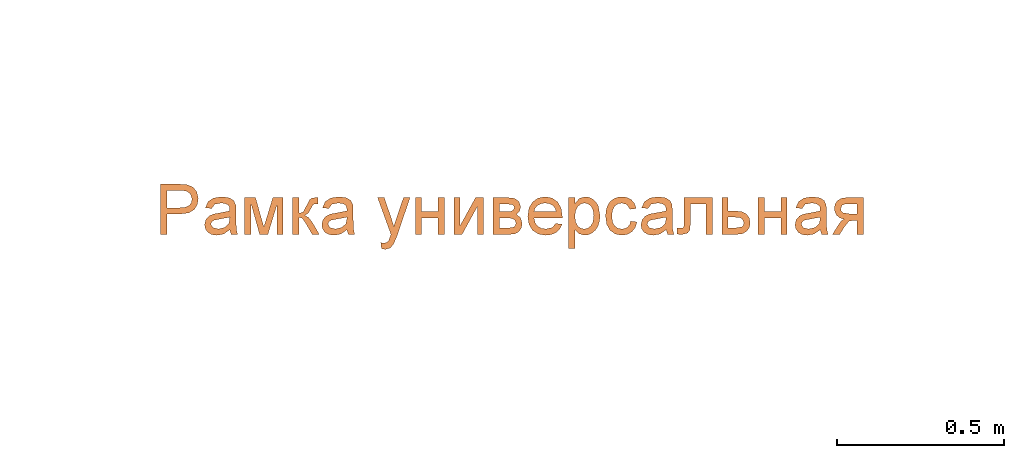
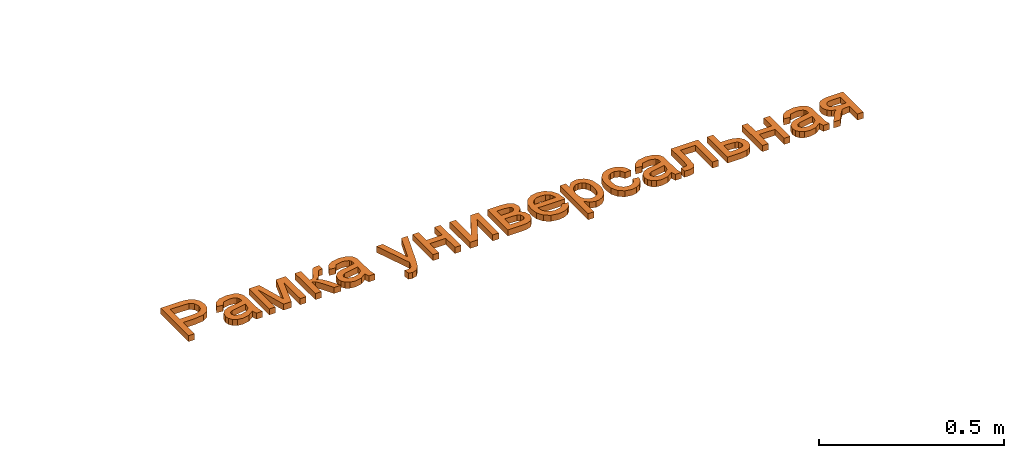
# One storey, part 30 of 87: 1 proxy.
"""IFC2X3 building model written with IfcOpenShell, lengths in millimetres."""

from ifc_helpers import new_model, entity, si_unit, converted_unit, derived_unit, direction, frame, origin, place, context, subcontext, project, spatial, polyline, outline, extrude, element, save


model = new_model("IFC2X3")

# Units and contexts
model_context = context("Model", 3, precision=0.01, world=origin(), true_north=direction((6.12303176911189e-17, 1.0)))
body_context = subcontext(model_context, "Body", "Model", "MODEL_VIEW")
ifc_project = project(units=[si_unit("LENGTHUNIT", "METRE", prefix="MILLI"), si_unit("AREAUNIT", "SQUARE_METRE"), si_unit("VOLUMEUNIT", "CUBIC_METRE"), converted_unit("PLANEANGLEUNIT", "DEGREE", entity("IfcRatioMeasure", 0.0174532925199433), si_unit("PLANEANGLEUNIT", "RADIAN"), dimensions=[0, 0, 0, 0, 0, 0, 0]), si_unit("MASSUNIT", "GRAM", prefix="KILO"), derived_unit("MASSDENSITYUNIT", [(si_unit("MASSUNIT", "GRAM", prefix="KILO"), 1), (si_unit("LENGTHUNIT", "METRE"), -3)]), si_unit("TIMEUNIT", "SECOND"), si_unit("FREQUENCYUNIT", "HERTZ"), si_unit("THERMODYNAMICTEMPERATUREUNIT", "DEGREE_CELSIUS"), derived_unit("THERMALTRANSMITTANCEUNIT", [(si_unit("MASSUNIT", "GRAM", prefix="KILO"), 1), (si_unit("THERMODYNAMICTEMPERATUREUNIT", "KELVIN"), -1), (si_unit("TIMEUNIT", "SECOND"), -3)]), derived_unit("VOLUMETRICFLOWRATEUNIT", [(si_unit("LENGTHUNIT", "METRE"), 3), (si_unit("TIMEUNIT", "SECOND"), -1)]), si_unit("ELECTRICCURRENTUNIT", "AMPERE"), si_unit("ELECTRICVOLTAGEUNIT", "VOLT"), si_unit("POWERUNIT", "WATT"), si_unit("FORCEUNIT", "NEWTON", prefix="KILO"), si_unit("ILLUMINANCEUNIT", "LUX"), si_unit("LUMINOUSFLUXUNIT", "LUMEN"), si_unit("LUMINOUSINTENSITYUNIT", "CANDELA"), derived_unit("USERDEFINED", [(si_unit("MASSUNIT", "GRAM", prefix="KILO"), -1), (si_unit("LENGTHUNIT", "METRE"), -2), (si_unit("TIMEUNIT", "SECOND"), 3), (si_unit("LUMINOUSFLUXUNIT", "LUMEN"), 1)]), derived_unit("LINEARVELOCITYUNIT", [(si_unit("LENGTHUNIT", "METRE"), 1), (si_unit("TIMEUNIT", "SECOND"), -1)]), si_unit("PRESSUREUNIT", "PASCAL"), derived_unit("USERDEFINED", [(si_unit("LENGTHUNIT", "METRE"), -2), (si_unit("MASSUNIT", "GRAM", prefix="KILO"), 1), (si_unit("TIMEUNIT", "SECOND"), -2)])], contexts=[model_context])

# Site, building, storey
site_placement = place(None, origin())
site = spatial("IfcSite", under=ifc_project, at=site_placement, Name="Default", CompositionType="ELEMENT")
building_placement = place(site_placement, origin())
building = spatial("IfcBuilding", under=site, at=building_placement, Name="Наименование здания", CompositionType="ELEMENT")
storey_placement = place(building_placement, origin())
storey = spatial("IfcBuildingStorey", under=building, at=storey_placement, Name="Этаж 01", CompositionType="ELEMENT", Elevation=0.0)

# Proxy
proxy_placement = place(storey_placement, origin())
element("IfcBuildingElementProxy", 1, at=proxy_placement, inside=storey, Name="Текст модели:150 мм Arial", ObjectType="Текст модели:150 мм Arial", context=body_context, shape_type="SweptSolid", body=[
    extrude(outline(polyline([(-64.7670401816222, -90.6454161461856), (-45.9314820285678, -90.6454161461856), (-45.9314820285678, -29.4298521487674), (-7.63496633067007, -29.4298521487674), (19.1238502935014, -26.1005200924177), (36.1245969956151, -16.1125239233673), (45.2158808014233, -1.31447066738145), (48.2463087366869, 16.4450326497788), (43.7581483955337, 36.9912420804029), (31.8939540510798, 51.5593690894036), (13.5918247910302, 58.6043092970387), (-8.92255331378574, 60.039049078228), (-64.7670401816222, 60.039049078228), (-64.7670401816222, -90.6454161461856)]), holes=[polyline([(-45.9314820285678, -10.5942939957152), (-45.9314820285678, 41.2034909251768), (-6.97277873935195, 41.2034909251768), (11.8627794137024, 39.9159039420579), (24.5731023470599, 31.3810416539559), (29.4107505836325, 15.7828450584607), (27.3598084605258, 4.64521765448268), (21.2069820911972, -3.6781124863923), (10.1705222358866, -8.86524861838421), (-6.53132034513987, -10.5942939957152), (-45.9314820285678, -10.5942939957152)])]), frame((72199.9794154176, -7617.29689412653, 0.0)), (0.0, 0.0, 1.0), 20.0),
    extrude(outline(polyline([(49.6524096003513, 10.0181831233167), (64.5432257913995, 10.0181831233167), (70.499552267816, 27.8871625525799), (54.2883394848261, 29.3355270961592), (22.9420080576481, 38.7760718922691), (0.710484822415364, 46.1865796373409), (-15.2157084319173, 50.525856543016), (-29.1700318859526, 49.0891254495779), (-41.2222862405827, 39.5147959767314), (-51.6167739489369, 18.9177724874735), (-55.8804334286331, -5.85565960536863), (-50.8431495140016, -24.8298167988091), (-35.9697834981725, -38.3769694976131), (-27.7798345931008, -21.2525308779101), (-37.1040448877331, -8.56625349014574), (-34.5156022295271, 10.6580228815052), (-29.3910674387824, 21.7272506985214), (-22.7658175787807, 28.6898706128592), (-16.3179778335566, 30.6413818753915), (-7.93316863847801, 29.2133758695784), (-3.98942903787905, 27.7824615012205), (-8.17747109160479, -5.25653692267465), (-10.6437625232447, -21.613167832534), (-8.95109552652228, -36.079363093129), (-1.68600590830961, -48.4864376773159), (11.3085579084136, -56.6182193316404), (24.0777236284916, -58.3588743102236), (36.0005558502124, -54.7859509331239), (46.0329524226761, -45.8907241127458), (53.1308111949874, -31.6644687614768), (55.9868232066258, -11.3466480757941), (49.6524096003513, 10.0181831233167)]), holes=[polyline([(13.9144507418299, 21.930836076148), (18.9401012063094, 20.1392847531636), (31.8183305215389, 12.7055101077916), (38.2807120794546, -2.40052491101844), (36.529877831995, -21.9040040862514), (27.449969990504, -36.2305979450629), (16.0084717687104, -38.3304356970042), (9.94744424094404, -33.5956214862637), (7.55677023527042, -25.0624858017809), (9.78457593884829, -8.72330506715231), (13.9144507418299, 21.930836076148)])]), frame((72317.1979613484, -7649.87925763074, 0.0), z_axis=(0.0, 0.0, 1.0), x_axis=(0.31622776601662, -0.948683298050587, 0.0)), (0.0, 0.0, 1.0), 20.0),
    extrude(outline(polyline([(-60.8759806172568, -57.6754072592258), (49.7829235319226, -57.6754072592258), (49.7829235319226, -38.8398491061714), (-43.5855268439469, -38.8398491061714), (49.7829235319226, -12.9409566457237), (49.7829235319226, 11.7807134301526), (-39.3180956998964, 38.8568282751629), (49.7829235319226, 38.8568282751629), (49.7829235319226, 57.6923864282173), (-60.8759806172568, 57.6923864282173), (-60.8759806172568, 26.6431460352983), (27.7100038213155, -0.28581601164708), (-60.8759806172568, -25.26500348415), (-60.8759806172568, -57.6754072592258)])), frame((72444.8133727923, -7658.15938674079, 0.0), z_axis=(0.0, 0.0, 1.0), x_axis=(0.0, -1.0, 0.0)), (0.0, 0.0, 1.0), 20.0),
    extrude(outline(polyline([(-45.4943568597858, -44.3029556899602), (65.1645472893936, -44.3029556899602), (65.1645472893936, -25.4673975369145), (13.3667623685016, -25.4673975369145), (16.8432472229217, -15.3506426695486), (31.2090391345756, -5.41782879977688), (65.1645472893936, 14.3374343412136), (65.1645472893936, 35.748166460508), (30.4732751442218, 15.5882331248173), (15.031428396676, 3.92637387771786), (7.70137964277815, -7.95621456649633), (1.13468602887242, 2.69396919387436), (-12.2746126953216, 10.2907323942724), (-24.6722359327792, 16.76545550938), (-26.6587987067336, 25.9625053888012), (-26.5484341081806, 31.03927692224), (-45.4943568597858, 31.03927692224), (-45.4943568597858, 27.434033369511), (-44.0596170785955, 13.6568526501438), (-38.5229930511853, 6.0784835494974), (-21.508450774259, -2.51156103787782), (-1.78997583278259, -12.8490451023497), (1.59453852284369, -25.4673975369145), (-45.4943568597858, -25.4673975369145), (-45.4943568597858, -44.3029556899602)])), frame((72575.0620521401, -7642.77776298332, 0.0), z_axis=(0.0, 0.0, 1.0), x_axis=(0.0, -1.0, 0.0)), (0.0, 0.0, 1.0), 20.0),
    extrude(outline(polyline([(49.6524096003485, 10.0181831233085), (64.5432257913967, 10.0181831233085), (70.4995522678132, 27.8871625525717), (54.2883394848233, 29.335527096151), (22.9420080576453, 38.7760718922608), (0.710484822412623, 46.1865796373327), (-15.21570843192, 50.5258565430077), (-29.1700318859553, 49.0891254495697), (-41.2222862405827, 39.5147959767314), (-51.6167739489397, 18.9177724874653), (-55.8804334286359, -5.85565960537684), (-50.8431495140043, -24.8298167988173), (-35.9697834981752, -38.3769694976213), (-27.7798345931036, -21.2525308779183), (-37.1040448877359, -8.56625349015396), (-34.5156022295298, 10.658022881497), (-29.3910674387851, 21.7272506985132), (-22.7658175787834, 28.689870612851), (-16.3179778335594, 30.6413818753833), (-7.93316863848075, 29.2133758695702), (-3.98942903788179, 27.7824615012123), (-8.17747109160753, -5.25653692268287), (-10.6437625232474, -21.6131678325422), (-8.95109552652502, -36.0793630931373), (-1.68600590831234, -48.4864376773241), (11.3085579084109, -56.6182193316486), (24.0777236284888, -58.3588743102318), (36.0005558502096, -54.7859509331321), (46.0329524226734, -45.890724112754), (53.1308111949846, -31.664468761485), (55.9868232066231, -11.3466480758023), (49.6524096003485, 10.0181831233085)]), holes=[polyline([(13.9144507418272, 21.9308360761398), (18.9401012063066, 20.1392847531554), (31.8183305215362, 12.7055101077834), (38.2807120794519, -2.40052491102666), (36.5298778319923, -21.9040040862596), (27.4499699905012, -36.2305979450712), (16.0084717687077, -38.3304356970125), (9.94744424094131, -33.5956214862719), (7.55677023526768, -25.0624858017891), (9.78457593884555, -8.72330506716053), (13.9144507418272, 21.9308360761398)])]), frame((72668.010231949, -7649.87925763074, 0.0), z_axis=(0.0, 0.0, 1.0), x_axis=(0.31622776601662, -0.948683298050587, 0.0)), (0.0, 0.0, 1.0), 20.0),
    extrude(outline(polyline([(-14.0627784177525, -63.6897846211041), (-2.30982667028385, -63.6897846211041), (11.2235996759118, -56.6043892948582), (19.2677475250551, -41.4042581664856), (24.1483344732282, -15.3233337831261), (39.1861017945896, 103.403530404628), (19.8673420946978, 99.4533686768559), (11.3764058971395, 32.0809099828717), (8.47999679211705, 9.33454668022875), (-3.68750084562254, 31.9296007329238), (-36.7914083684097, 87.8681928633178), (-56.254337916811, 83.8885523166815), (5.04686591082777, -16.1124679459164), (4.51901081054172, -20.8765214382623), (2.25144479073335, -35.4962883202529), (-1.95815357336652, -42.2710621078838), (-10.3000835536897, -46.098299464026), (-20.002760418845, -46.3925118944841), (-14.0627784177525, -63.6897846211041)])), frame((72823.3479099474, -7690.74076131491, 0.0), z_axis=(0.0, 0.0, 1.0), x_axis=(0.979728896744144, -0.200327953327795, 0.0)), (0.0, 0.0, 1.0), 20.0),
    extrude(outline(polyline([(-54.1522296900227, -43.5572282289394), (56.5066744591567, -43.5572282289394), (56.5066744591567, -24.7216700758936), (7.0633343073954, -24.7216700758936), (7.0633343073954, 24.7216700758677), (56.5066744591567, 24.7216700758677), (56.5066744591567, 43.5572282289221), (-54.1522296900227, 43.5572282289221), (-54.1522296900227, 24.7216700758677), (-11.7722238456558, 24.7216700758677), (-11.7722238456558, -24.7216700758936), (-54.1522296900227, -24.7216700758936), (-54.1522296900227, -43.5572282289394)])), frame((72941.6097086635, -7651.43563581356, 0.0), z_axis=(0.0, 0.0, 1.0), x_axis=(0.0, -1.0, 0.0)), (0.0, 0.0, 1.0), 20.0),
    extrude(outline(polyline([(-55.3809555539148, -44.7638811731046), (55.2779485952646, -44.7638811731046), (55.2779485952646, -20.1157874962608), (-28.5991463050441, 25.8694619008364), (55.2779485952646, 25.8694619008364), (55.2779485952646, 44.7050200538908), (-55.3809555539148, 44.7050200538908), (-55.3809555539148, 20.3512319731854), (29.0111741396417, -25.9283230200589), (-55.3809555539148, -25.9283230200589), (-55.3809555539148, -44.7638811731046)])), frame((73058.1841552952, -7652.66436167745, 0.0), z_axis=(0.0, 0.0, 1.0), x_axis=(0.0, -1.0, 0.0)), (0.0, 0.0, 1.0), 20.0),
    extrude(outline(polyline([(-56.9428773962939, -61.1019147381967), (53.7160267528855, -61.1019147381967), (53.7160267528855, -13.2404671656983), (51.720266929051, 3.22225211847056), (45.7329874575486, 15.2335992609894), (35.6254296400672, 22.8211654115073), (21.2688347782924, 26.0125417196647), (3.51852851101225, 20.9725583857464), (-6.6901968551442, 8.31741775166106), (-16.0160054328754, 18.0662906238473), (-29.0942103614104, 21.3036521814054), (-45.1890476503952, 15.9509691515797), (-54.4228857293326, 3.14867571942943), (-56.9428773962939, -19.6048256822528), (-56.9428773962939, -61.1019147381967)]), holes=[polyline([(-14.562871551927, -42.2663565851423), (-38.1073192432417, -42.2663565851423), (-38.1073192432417, -23.062916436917), (-35.4953570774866, -3.30765329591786), (-31.8809164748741, 1.02415719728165), (-26.2615189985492, 2.46809402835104), (-19.3453374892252, -0.82444982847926), (-15.5193647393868, -8.29245433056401), (-14.562871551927, -23.651527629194), (-14.562871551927, -42.2663565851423)]), polyline([(34.8804685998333, -42.2663565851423), (4.27268660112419, -42.2663565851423), (4.27268660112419, -21.0027772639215), (5.37633258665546, -4.42969338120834), (10.6554392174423, 3.95801610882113), (19.7237303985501, 7.17698356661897), (26.8376484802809, 5.56749983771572), (31.4775601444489, 1.32765984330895), (34.8804685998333, -19.1633672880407), (34.8804685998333, -42.2663565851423)])]), frame((73192.2444273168, -7654.22628351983, 0.0), z_axis=(0.0, 0.0, 1.0), x_axis=(0.0, -1.0, 0.0)), (0.0, 0.0, 1.0), 20.0),
    extrude(outline(polyline([(-12.1519235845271, -30.5627594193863), (-23.3028322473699, -45.4710024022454), (-8.6760055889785, -50.3662606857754), (6.18277634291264, -49.9698260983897), (20.8164252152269, -44.172116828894), (34.7678526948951, -32.8635510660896), (47.4570640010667, -14.388569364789), (51.2430729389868, 5.6120299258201), (45.9060763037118, 25.866330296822), (31.2262708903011, 45.1024152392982), (10.9154740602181, 59.6770093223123), (-9.99269287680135, 64.667672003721), (-29.9463894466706, 60.6331852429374), (-47.3937751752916, 48.1323309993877), (-58.8653278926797, 30.7635073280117), (-61.9660241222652, 11.0147969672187), (-56.1560561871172, -9.52443743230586), (-40.8956164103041, -29.2648332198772), (-37.1706876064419, -32.7160206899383), (21.6964908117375, 28.1133970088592), (29.5607979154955, 15.9656989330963), (31.7422008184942, 3.31507577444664), (28.7208128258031, -8.9720512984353), (20.9767472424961, -20.0292611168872), (5.30526907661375, -30.5627594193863), (-12.1519235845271, -30.5627594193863)]), holes=[polyline([(8.16121838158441, 41.2120477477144), (-37.6840592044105, -6.16140575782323), (-43.0633748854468, 2.58957596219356), (-44.7058228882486, 11.12864266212), (-41.827701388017, 23.6248066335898), (-33.8073361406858, 35.086552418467), (-23.7122716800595, 42.9855035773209), (-12.6145549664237, 46.8552978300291), (-1.6210902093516, 46.3720932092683), (8.16121838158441, 41.2120477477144)])]), frame((73288.8641924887, -7662.45848403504, 0.0), z_axis=(0.0, 0.0, -1.0), x_axis=(-0.695421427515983, -0.718602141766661, 0.0)), (0.0, 0.0, -1.0), 20.0),
    extrude(outline(polyline([(-51.3898957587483, -92.5503727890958), (-32.5543376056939, -92.5503727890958), (-32.5543376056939, -35.4550871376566), (-20.6165668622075, -47.6871634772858), (-4.22742397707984, -52.5248117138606), (7.98165973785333, -50.7175914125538), (19.5929352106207, -45.2959305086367), (29.5625372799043, -36.4851567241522), (36.8466007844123, -24.5105977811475), (41.302571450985, -10.1034191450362), (42.787895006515, 6.00521371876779), (37.527182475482, 35.0311031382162), (30.9972770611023, 46.7849328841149), (21.9289858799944, 55.558918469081), (10.7913584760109, 61.0219660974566), (-1.946555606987, 62.8429819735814), (-19.5313149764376, 57.6374517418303), (-32.5543376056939, 42.0208610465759), (-32.5543376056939, 60.4885372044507), (-51.3898957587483, 60.4885372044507), (-51.3898957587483, -92.5503727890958)]), holes=[polyline([(-32.5543376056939, 4.27616834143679), (-30.3792353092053, 21.3596884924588), (-23.853928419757, 33.8354866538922), (-14.5051272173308, 41.4644395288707), (-3.85954198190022, 44.0074238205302), (6.74465652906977, 41.6161908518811), (15.7485683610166, 34.4424919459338), (21.901394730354, 22.467933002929), (23.9523368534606, 5.67411992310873), (21.8508109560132, -11.8462600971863), (15.5462332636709, -24.0875334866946), (6.29859960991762, -31.2888235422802), (-4.63209417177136, -33.6892535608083), (-15.388044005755, -31.3715969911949), (-24.4057514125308, -24.4186272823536), (-30.5171910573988, -12.6096152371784), (-32.5543376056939, 4.27616834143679)])]), frame((73408.559106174, -7657.77194332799, 0.0)), (0.0, 0.0, 1.0), 20.0),
    extrude(outline(polyline([(6.77218430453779, -32.6880162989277), (3.47919135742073, -51.3823432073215), (21.0352248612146, -51.2935104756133), (36.0385414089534, -45.5877688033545), (47.6356474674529, -34.9742466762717), (54.9730495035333, -20.1620725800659), (57.3315572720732, 0.0758389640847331), (51.3286597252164, 18.3174486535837), (37.0810593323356, 33.2854261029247), (14.7054585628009, 43.7024409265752), (-1.73746788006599, 47.2596707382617), (-16.891656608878, 47.4079950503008), (-30.2412319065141, 43.9163864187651), (-41.270318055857, 36.5538173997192), (-49.6896409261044, 26.2753303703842), (-55.2099263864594, 14.0359677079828), (-57.6963038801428, -1.85137033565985), (-54.848601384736, -16.041974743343), (-46.8993177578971, -28.0408309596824), (-34.0809518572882, -37.3529244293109), (-26.2876013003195, -20.0443904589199), (-37.1997991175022, -7.54215198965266), (-37.2518019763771, 8.35215978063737), (-31.4457718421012, 19.3006318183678), (-21.9310317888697, 26.4799459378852), (-8.59621128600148, 28.9704724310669), (8.6700601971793, 25.8525815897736), (24.9370752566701, 18.6926998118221), (34.6412636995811, 9.25213062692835), (38.4812527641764, -1.85665774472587), (37.1556696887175, -14.0211970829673), (32.9052994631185, -22.9177981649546), (26.411910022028, -29.2856740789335), (17.694529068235, -32.6880162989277), (6.77218430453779, -32.6880162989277)])), frame((73513.9229170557, -7651.82461692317, 0.0), z_axis=(0.0, 0.0, -1.0), x_axis=(-0.294292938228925, -0.955715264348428, 0.0)), (0.0, 0.0, -1.0), 20.0),
    extrude(outline(polyline([(49.6524096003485, 10.0181831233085), (64.5432257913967, 10.0181831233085), (70.4995522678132, 27.8871625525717), (54.2883394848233, 29.335527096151), (22.9420080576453, 38.7760718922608), (0.710484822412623, 46.1865796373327), (-15.21570843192, 50.5258565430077), (-29.1700318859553, 49.0891254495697), (-41.2222862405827, 39.5147959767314), (-51.6167739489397, 18.9177724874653), (-55.8804334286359, -5.85565960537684), (-50.8431495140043, -24.8298167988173), (-35.9697834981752, -38.3769694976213), (-27.7798345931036, -21.2525308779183), (-37.1040448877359, -8.56625349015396), (-34.5156022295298, 10.658022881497), (-29.3910674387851, 21.7272506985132), (-22.7658175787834, 28.689870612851), (-16.3179778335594, 30.6413818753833), (-7.93316863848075, 29.2133758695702), (-3.98942903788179, 27.7824615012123), (-8.17747109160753, -5.25653692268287), (-10.6437625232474, -21.6131678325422), (-8.95109552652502, -36.0793630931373), (-1.68600590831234, -48.4864376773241), (11.3085579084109, -56.6182193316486), (24.0777236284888, -58.3588743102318), (36.0005558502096, -54.7859509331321), (46.0329524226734, -45.890724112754), (53.1308111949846, -31.664468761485), (55.9868232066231, -11.3466480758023), (49.6524096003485, 10.0181831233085)]), holes=[polyline([(13.9144507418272, 21.9308360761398), (18.9401012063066, 20.1392847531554), (31.8183305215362, 12.7055101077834), (38.2807120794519, -2.40052491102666), (36.5298778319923, -21.9040040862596), (27.4499699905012, -36.2305979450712), (16.0084717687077, -38.3304356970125), (9.94744424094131, -33.5956214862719), (7.55677023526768, -25.0624858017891), (9.78457593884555, -8.72330506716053), (13.9144507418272, 21.9308360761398)])]), frame((73623.9148082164, -7649.87925763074, 0.0), z_axis=(0.0, 0.0, 1.0), x_axis=(0.31622776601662, -0.948683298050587, 0.0)), (0.0, 0.0, 1.0), 20.0),
    extrude(outline(polyline([(-74.053495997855, 18.8171640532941), (-74.053495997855, -65.942847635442), (36.4950435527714, -65.942847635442), (36.4950435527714, -47.1072894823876), (-55.2179378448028, -47.1072894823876), (-55.2179378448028, -0.0183940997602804), (-2.42687153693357, -0.0183940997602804), (21.9269165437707, 1.25079878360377), (32.2092183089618, 8.22216259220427), (36.6054081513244, 24.7032759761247), (35.6489149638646, 40.0071669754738), (17.7698499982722, 40.0071669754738), (17.7698499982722, 31.5826692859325), (16.6110217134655, 23.066201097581), (12.9322017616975, 19.6632926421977), (-3.49372932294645, 18.8171640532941), (-74.053495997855, 18.8171640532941)])), frame((73722.0897555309, -7671.33690212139, 0.0), z_axis=(0.0, 0.0, -1.0), x_axis=(0.0, -1.0, 0.0)), (0.0, 0.0, -1.0), 20.0),
    extrude(outline(polyline([(-63.5983073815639, -49.2961873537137), (47.0605967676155, -49.2961873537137), (47.0605967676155, -5.55501812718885), (44.4808242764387, 13.0000300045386), (36.7415068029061, 25.6965573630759), (25.3693546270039, 33.0220075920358), (11.8910780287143, 35.4638243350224), (-2.91157375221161, 32.5943447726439), (-14.1365731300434, 23.9859060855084), (-21.2137030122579, 10.0615725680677), (-23.5727463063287, -8.75559148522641), (-23.5727463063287, -30.4606292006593), (-63.5983073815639, -30.4606292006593), (-63.5983073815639, -49.2961873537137)]), holes=[polyline([(28.2250386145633, -30.4606292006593), (-4.7371881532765, -30.4606292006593), (-4.7371881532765, -10.6317896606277), (-3.46799526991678, 3.53626567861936), (0.339583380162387, 11.60667694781), (11.9278662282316, 16.628266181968), (19.2073312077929, 14.9314104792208), (24.2703071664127, 9.84084337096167), (28.2250386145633, -12.8758698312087), (28.2250386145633, -30.4606292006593)])]), frame((73865.5821277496, -7660.8817135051, 0.0), z_axis=(0.0, 0.0, 1.0), x_axis=(0.0, -1.0, 0.0)), (0.0, 0.0, 1.0), 20.0),
    extrude(outline(polyline([(-54.1522296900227, -43.5572282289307), (56.5066744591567, -43.5572282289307), (56.5066744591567, -24.7216700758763), (7.0633343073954, -24.7216700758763), (7.0633343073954, 24.721670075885), (56.5066744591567, 24.721670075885), (56.5066744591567, 43.5572282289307), (-54.1522296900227, 43.5572282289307), (-54.1522296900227, 24.721670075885), (-11.7722238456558, 24.721670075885), (-11.7722238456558, -24.7216700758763), (-54.1522296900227, -24.7216700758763), (-54.1522296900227, -43.5572282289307)])), frame((73968.1476280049, -7651.43563581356, 0.0), z_axis=(0.0, 0.0, 1.0), x_axis=(0.0, -1.0, 0.0)), (0.0, 0.0, 1.0), 20.0),
    extrude(outline(polyline([(49.6524096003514, 10.0181831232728), (64.5432257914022, 10.0181831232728), (70.4995522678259, 27.8871625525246), (54.2883394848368, 29.3355270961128), (22.9420080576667, 38.7760718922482), (0.710484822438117, 46.1865796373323), (-15.2157084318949, 50.5258565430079), (-29.1700318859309, 49.0891254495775), (-41.2222862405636, 39.514795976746), (-51.616773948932, 18.9177724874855), (-55.8804334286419, -5.85565960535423), (-50.8431495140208, -24.8298167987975), (-35.9697834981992, -38.3769694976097), (-27.7798345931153, -21.252530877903), (-37.1040448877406, -8.56625349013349), (-34.5156022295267, 10.6580228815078), (-29.3910674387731, 21.7272506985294), (-22.7658175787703, 28.6898706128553), (-16.3179778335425, 30.6413818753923), (-7.93316863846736, 29.2133758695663), (-3.98942903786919, 27.7824615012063), (-8.17747109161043, -5.25653692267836), (-10.6437625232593, -21.6131678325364), (-8.95109552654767, -36.0793630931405), (-1.68600590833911, -48.4864376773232), (11.3085579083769, -56.6182193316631), (24.0777236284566, -58.3588743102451), (36.0005558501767, -54.7859509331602), (46.0329524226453, -45.8907241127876), (53.1308111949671, -31.6644687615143), (55.9868232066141, -11.3466480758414), (49.6524096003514, 10.0181831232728)]), holes=[polyline([(13.9144507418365, 21.9308360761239), (18.940101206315, 20.1392847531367), (31.8183305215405, 12.7055101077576), (38.2807120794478, -2.400524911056), (36.5298778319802, -21.9040040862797), (27.4499699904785, -36.2305979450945), (16.0084717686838, -38.3304356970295), (9.94744424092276, -33.5956214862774), (7.55677023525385, -25.0624858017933), (9.78457593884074, -8.72330506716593), (13.9144507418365, 21.9308360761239)])]), frame((74085.3859829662, -7649.87925763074, 0.0), z_axis=(0.0, 0.0, 1.0), x_axis=(0.316227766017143, -0.948683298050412, 0.0)), (0.0, 0.0, 1.0), 20.0),
    extrude(outline(polyline([(-56.4073463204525, -58.5456604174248), (-7.25831176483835, -58.5456604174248), (9.02966357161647, -56.3291713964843), (20.9582372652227, -49.6797043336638), (28.2698919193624, -39.4709789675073), (30.707110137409, -26.5767150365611), (28.9228824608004, -15.209161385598), (23.5701994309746, -5.23955931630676), (14.520302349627, 2.2560363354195), (1.64443251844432, 6.20157073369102), (9.33316621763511, 11.0208248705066), (17.6840875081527, 21.8733437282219), (36.5932220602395, 52.1132437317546), (14.8146079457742, 52.1132437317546), (-0.194977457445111, 28.2009140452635), (-13.3283646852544, 12.1244708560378), (-27.3078805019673, 9.73323788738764), (-37.5717881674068, 9.73323788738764), (-37.5717881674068, 52.1132437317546), (-56.4073463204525, 52.1132437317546), (-56.4073463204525, -58.5456604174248)]), holes=[polyline([(-37.5717881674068, -39.7101022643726), (-37.5717881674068, -9.10232026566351), (-18.2947716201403, -9.10232026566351), (5.23128197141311, -12.9834753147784), (10.2114844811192, -17.9636778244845), (11.8715519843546, -25.1419752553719), (7.36499754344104, -35.3507006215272), (0.0855325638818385, -38.6202518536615), (-12.7397534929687, -39.7101022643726), (-37.5717881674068, -39.7101022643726)])]), frame((74183.6786525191, -7655.82906654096, 0.0), z_axis=(0.0, 0.0, 1.0), x_axis=(-1.0, 0.0, 0.0)), (0.0, 0.0, 1.0), 20.0),
])

save(model, "model.ifc")
